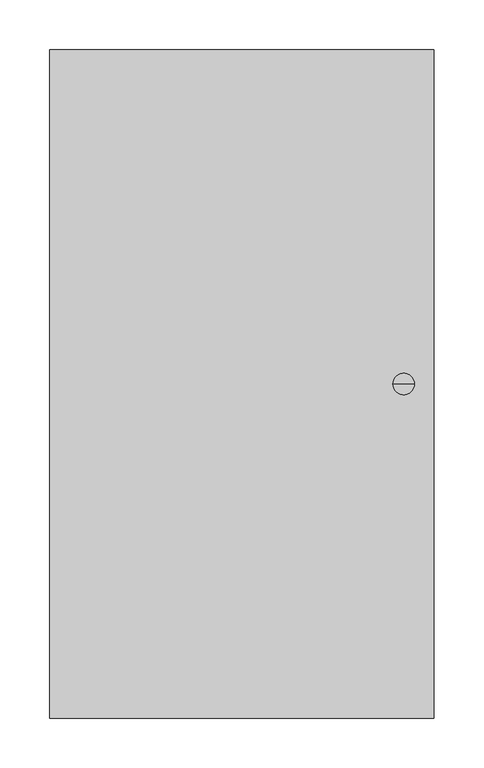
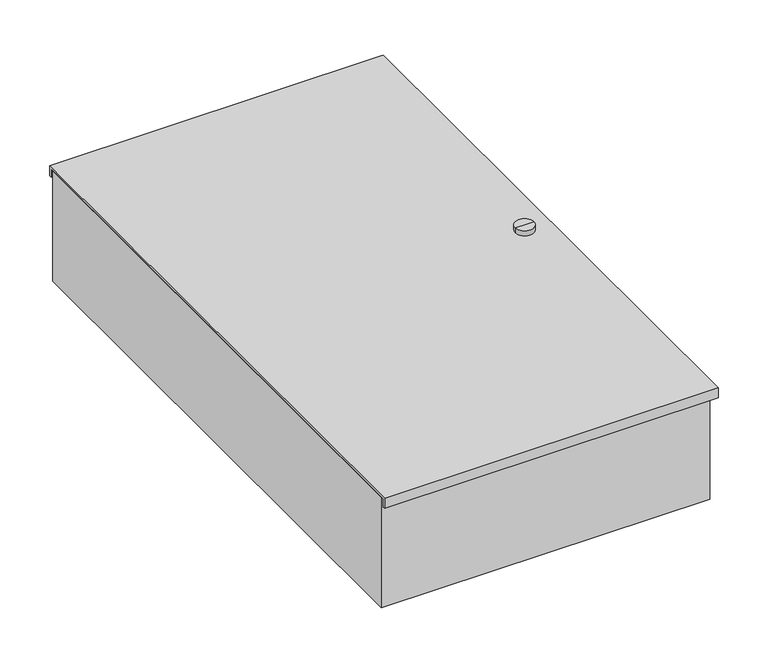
"""IFC4 building model written with IfcOpenShell, lengths in millimetres: alarm geometry, Emergency_Notification Transmitter : FTRC."""

from ifc_helpers import new_model, si_unit, frame, origin, place, context, project, spatial, polyline, circle_curve, outline, extrude, faceted_brep, source, transform, mapped, element, save
from ifc_brep_helpers import plane_surface, cylinder_surface, advanced_brep


def alarm_306436d5(model_context):
    return source(origin(), model_context, "Body", "SolidModel", [
        faceted_brep([(196.85, 336.55, 125.8824), (196.85, 336.55, 138.43), (196.85, -336.55, 138.43), (196.85, -336.55, 125.8824), (-190.5, -336.55, 125.8824), (-190.5, -336.55, 138.43), (-190.5, 336.55, 138.43), (-190.5, 336.55, 125.8824), (-190.5, 334.01, 125.8824), (-190.5, 334.01, 135.89), (-190.5, -334.01, 135.89), (-190.5, -334.01, 125.8824), (194.31, -334.01, 125.8824), (194.31, 334.01, 125.8824), (194.31, -334.01, 135.89), (194.31, 334.01, 135.89), (194.31, 336.55, 138.43), (194.31, -336.55, 138.43)], [[[0, 1, 2, 3]], [[4, 5, 6, 7, 8, 9, 10, 11]], [[0, 3, 4, 11, 12, 13, 8, 7]], [[11, 10, 14, 12]], [[10, 9, 15, 14]], [[9, 8, 13, 15]], [[1, 0, 7, 6, 16]], [[2, 1, 16, 6, 5, 17]], [[4, 3, 2, 17, 5]], [[13, 12, 14, 15]]]),
        faceted_brep([(188.595, -328.295, 135.89), (188.595, 328.295, 135.89), (188.595, 328.295, 1.905), (188.595, -328.295, 1.905), (190.5, -330.2, 135.89), (190.5, -330.2, 0.0), (190.5, 330.2, 0.0), (190.5, 330.2, 135.89), (-190.5, -330.2, 135.89), (-190.5, 330.2, 135.89), (-188.595, -328.295, 135.89), (-188.595, 328.295, 135.89), (-190.5, 330.2, 0.0), (-190.5, -330.2, 0.0), (-188.595, -328.295, 1.905), (-188.595, 328.295, 1.905)], [[[0, 1, 2, 3]], [[4, 5, 6, 7]], [[8, 4, 7, 9], [1, 0, 10, 11]], [[8, 9, 12, 13]], [[11, 10, 14, 15]], [[5, 4, 8, 13]], [[6, 5, 13, 12]], [[7, 6, 12, 9]], [[1, 11, 15, 2]], [[14, 3, 2, 15]], [[10, 0, 3, 14]]]),
        advanced_brep(
        [(166.37, 0.0, 144.9324), (177.165, 0.0, 144.9324), (155.575, 0.0, 144.9324), (155.575, 0.0, 138.43), (177.165, 0.0, 138.43), (166.37, 0.0, 138.43)],
        [
            (0, 1),
            (1, 2, circle_curve(frame((166.37, 0.0, 144.9324), z_axis=(0.0, 0.0, 1.0), x_axis=(1.0, 0.0, 0.0)), 10.795)),
            (2, 0),
            (2, 1, circle_curve(frame((166.37, 0.0, 144.9324), z_axis=(0.0, 0.0, 1.0), x_axis=(1.0, 0.0, 0.0)), 10.795)),
            (3, 4, circle_curve(frame((166.37, 0.0, 138.43), z_axis=(0.0, 0.0, -1.0), x_axis=(1.0, 0.0, 0.0)), 10.795)),
            (4, 5),
            (5, 3),
            (4, 3, circle_curve(frame((166.37, 0.0, 138.43), z_axis=(0.0, 0.0, -1.0), x_axis=(1.0, 0.0, 0.0)), 10.795)),
            (1, 4),
            (3, 2),
        ],
        [
            plane_surface(frame((166.37, 0.0, 144.9324), z_axis=(0.0, 0.0, 1.0), x_axis=(1.0, 0.0, 0.0))),
            plane_surface(frame((166.37, 0.0, 138.43), z_axis=(0.0, 0.0, -1.0), x_axis=(1.0, 0.0, 0.0))),
            cylinder_surface(frame((166.37, 0.0, 138.43), z_axis=(0.0, 0.0, 1.0), x_axis=(1.0, 0.0, 0.0)), 10.795),
        ],
        [
            (0, [[1, 2, 3]]),
            (0, [[-3, 4, -1]]),
            (1, [[5, 6, 7]]),
            (1, [[8, -7, -6]]),
            (2, [[-2, 9, -5, 10]]),
            (2, [[-4, -10, -8, -9]]),
        ],
    ),
        extrude(outline(polyline([(58.674, 86.995), (58.674, -116.205), (-169.926, -116.205), (-169.926, 86.995), (58.674, 86.995)])), frame((0.0, 0.0, 1.905), z_axis=(0.0, 0.0, 1.0), x_axis=(1.0, 0.0, 0.0)), (0.0, 0.0, 1.0), 87.63),
    ])


if __name__ == "__main__":
    model = new_model("IFC4")
    model_context = context("Model", 3, world=origin())
    ifc_project = project(units=[si_unit("LENGTHUNIT", "METRE", prefix="MILLI")], contexts=[model_context])
    site = spatial("IfcSite", under=ifc_project)
    building = spatial("IfcBuilding", under=site)
    placement = place(None, origin())
    alarm_shape = alarm_306436d5(model_context)
    element("IfcAlarm", 1, ObjectType="Emergency_Notification Transmitter : FTRC", at=placement, inside=building, context=model_context, shape_type="MappedRepresentation", body=[
        mapped(alarm_shape, transform((0.0, 0.0, 0.0), x_axis=(1.0, 0.0, 0.0), y_axis=(0.0, 1.0, 0.0), z_axis=(0.0, 0.0, 1.0))),
    ])
    save(model, "model.ifc")
